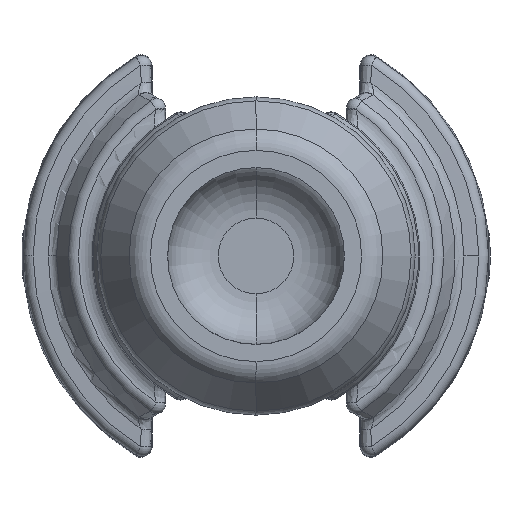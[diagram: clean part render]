
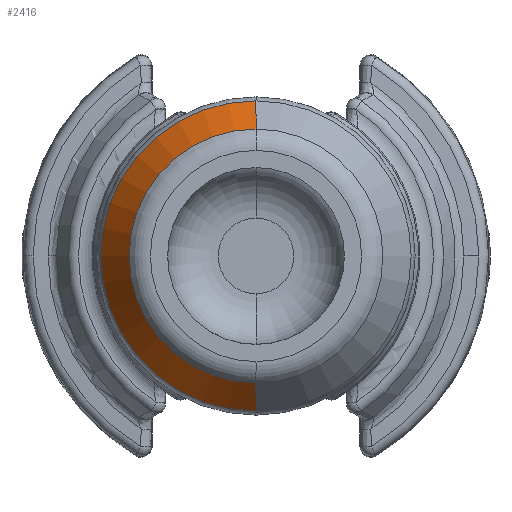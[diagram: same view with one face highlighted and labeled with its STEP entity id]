
A CAD part, front view. The second image highlights one B-rep face of the part: STEP entity #2416.
In plain terms, the highlighted conical face has half-angle 32.597 degrees and reference radius 3.665 mm.
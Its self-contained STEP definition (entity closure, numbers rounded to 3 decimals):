
#142 = CARTESIAN_POINT ( 'NONE',  ( 0., -2.216, 0. ) ) ;
#181 = CARTESIAN_POINT ( 'NONE',  ( 0., -3.144, 0. ) ) ;
#683 = LINE ( 'NONE', #6695, #4189 ) ;
#853 = EDGE_LOOP ( 'NONE', ( #1878, #3879, #8100, #7894 ) ) ;
#899 = LINE ( 'NONE', #10265, #10829 ) ;
#1061 = DIRECTION ( 'NONE',  ( 0., 0., 1. ) ) ;
#1878 = ORIENTED_EDGE ( 'NONE', *, *, #7644, .F. ) ;
#2416 = ADVANCED_FACE ( 'NONE', ( #4260 ), #6905, .T. ) ;
#2732 = EDGE_CURVE ( 'NONE', #7524, #7020, #899, .T. ) ;
#2938 = EDGE_CURVE ( 'NONE', #11095, #7020, #4912, .T. ) ;
#3055 = CARTESIAN_POINT ( 'NONE',  ( 0., -4.019, 0. ) ) ;
#3265 = CIRCLE ( 'NONE', #4731, 2.511 ) ;
#3568 = DIRECTION ( 'NONE',  ( 0., 1., 0. ) ) ;
#3765 = EDGE_CURVE ( 'NONE', #7335, #11095, #683, .T. ) ;
#3879 = ORIENTED_EDGE ( 'NONE', *, *, #2732, .T. ) ;
#4189 = VECTOR ( 'NONE', #6644, 1000. ) ;
#4260 = FACE_OUTER_BOUND ( 'NONE', #853, .T. ) ;
#4731 = AXIS2_PLACEMENT_3D ( 'NONE', #3055, #8324, #10849 ) ;
#4912 = CIRCLE ( 'NONE', #6361, 3.071 ) ;
#6078 = DIRECTION ( 'NONE',  ( 0., 0., -1. ) ) ;
#6361 = AXIS2_PLACEMENT_3D ( 'NONE', #181, #8802, #1061 ) ;
#6644 = DIRECTION ( 'NONE',  ( 0., 0.842, -0.539 ) ) ;
#6695 = CARTESIAN_POINT ( 'NONE',  ( 0., -2.216, -3.665 ) ) ;
#6905 = CONICAL_SURFACE ( 'NONE', #8156, 3.665, 0.569 ) ;
#7020 = VERTEX_POINT ( 'NONE', #8059 ) ;
#7050 = CARTESIAN_POINT ( 'NONE',  ( 0., -4.019, 2.511 ) ) ;
#7335 = VERTEX_POINT ( 'NONE', #9393 ) ;
#7524 = VERTEX_POINT ( 'NONE', #7050 ) ;
#7644 = EDGE_CURVE ( 'NONE', #7524, #7335, #3265, .T. ) ;
#7748 = DIRECTION ( 'NONE',  ( 0., 0.842, 0.539 ) ) ;
#7894 = ORIENTED_EDGE ( 'NONE', *, *, #3765, .F. ) ;
#8059 = CARTESIAN_POINT ( 'NONE',  ( 0., -3.144, 3.071 ) ) ;
#8100 = ORIENTED_EDGE ( 'NONE', *, *, #2938, .F. ) ;
#8156 = AXIS2_PLACEMENT_3D ( 'NONE', #142, #3568, #6078 ) ;
#8324 = DIRECTION ( 'NONE',  ( 0., -1., 0. ) ) ;
#8802 = DIRECTION ( 'NONE',  ( 0., 1., 0. ) ) ;
#9393 = CARTESIAN_POINT ( 'NONE',  ( 0., -4.019, -2.511 ) ) ;
#9835 = CARTESIAN_POINT ( 'NONE',  ( 0., -3.144, -3.071 ) ) ;
#10265 = CARTESIAN_POINT ( 'NONE',  ( 0., -2.216, 3.665 ) ) ;
#10829 = VECTOR ( 'NONE', #7748, 1000. ) ;
#10849 = DIRECTION ( 'NONE',  ( 0., 0., -1. ) ) ;
#11095 = VERTEX_POINT ( 'NONE', #9835 ) ;
